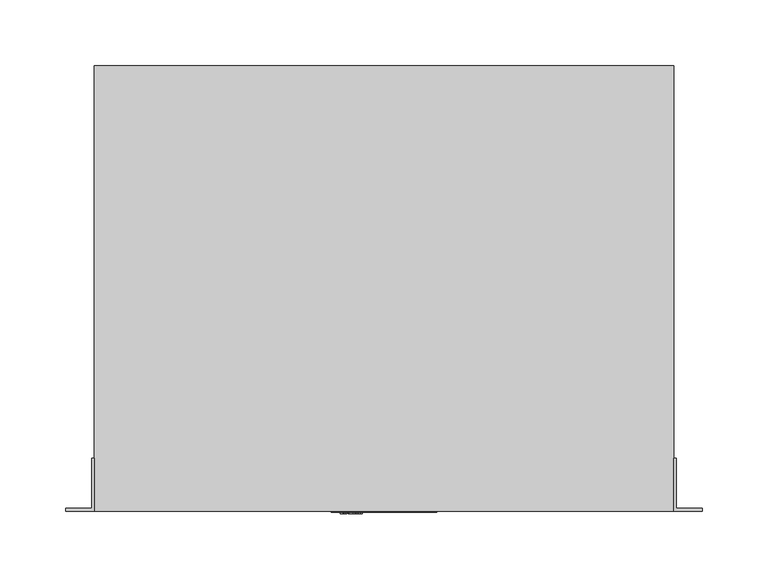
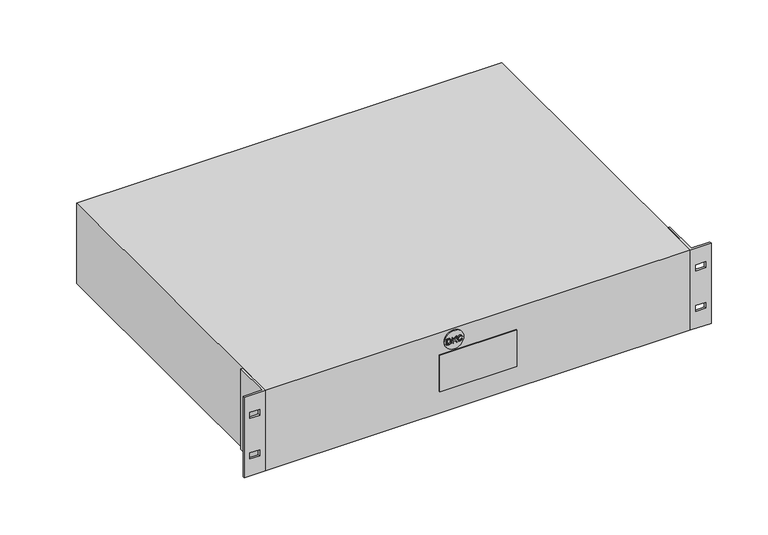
"""IFC4 building model written with IfcOpenShell, lengths in millimetres: proxy geometry, НВО_КНС_Линейно-интерактивныйИБПInfoRPro_DKC : 1000 ВА."""

import ifcopenshell
import ifcopenshell.guid

model = None  # the IFC model being written
_history = None  # IfcOwnerHistory: only IFC2X3 demands one
_inside = {}  # id of a spatial element -> (the spatial element, [elements in it])
_under = {}  # id of a project, library or spatial element -> (it, [spatial elements below it])
_declared = {}  # id of a project -> (the project, [libraries it declares])
_typed = {}  # id of a type object -> (the type object, [elements of that type])
_made_of = {}  # id of a material, layer set ... -> (it, [elements and type objects made of it])


def new_model(schema):
    """Start an empty IFC model of exactly this schema.

    Asked for "IFC4X3", IfcOpenShell would pick the latest addendum, in which some entities
    have other attributes; the version numbers below select the first issue.
    IFC2X3 requires an IfcOwnerHistory on every rooted entity: one is made here for all.
    """
    global model, _history
    if schema == "IFC4X3":
        model = ifcopenshell.file(schema_version=(4, 3, 0, 0))
    else:
        model = ifcopenshell.file(schema=schema)
    _inside.clear()
    _under.clear()
    _declared.clear()
    _typed.clear()
    _made_of.clear()
    _history = None
    if model.schema == "IFC2X3":
        org = make("IfcOrganization", Name="unknown")
        user = make(
            "IfcPersonAndOrganization",
            ThePerson=make("IfcPerson", FamilyName="unknown"),
            TheOrganization=org,
        )
        app = make(
            "IfcApplication",
            ApplicationDeveloper=org,
            Version="unknown",
            ApplicationFullName="unknown",
            ApplicationIdentifier="unknown",
        )
        _history = make(
            "IfcOwnerHistory",
            OwningUser=user,
            OwningApplication=app,
            ChangeAction="ADDED",
            CreationDate=0,
        )
    return model


def make(cls, **values):
    """One entity of the class cls with the attributes given. An attribute that is None is left unset."""
    return model.create_entity(
        cls, **{name: value for name, value in values.items() if value is not None}
    )


def rooted(cls, **values):
    """An entity with a GlobalId (a new one), such as an element, a storey or a relation."""
    return make(cls, GlobalId=ifcopenshell.guid.new(), OwnerHistory=_history, **values)


def si_unit(unit_type, name, prefix=None):
    """IfcSIUnit, for example si_unit("LENGTHUNIT", "METRE", prefix="MILLI")."""
    return make("IfcSIUnit", UnitType=unit_type, Prefix=prefix, Name=name)


def assignment(units):
    """IfcUnitAssignment: the units of a project."""
    return None if units is None else make("IfcUnitAssignment", Units=units)


def point(xyz):
    """IfcCartesianPoint."""
    return None if xyz is None else make("IfcCartesianPoint", Coordinates=xyz)


def direction(xyz):
    """IfcDirection."""
    return None if xyz is None else make("IfcDirection", DirectionRatios=xyz)


def frame(location, z_axis=None, x_axis=None):
    """IfcAxis2Placement3D, a coordinate frame: its origin and axes. An axis left out is left unset."""
    return make(
        "IfcAxis2Placement3D",
        Location=point(location),
        Axis=direction(z_axis),
        RefDirection=direction(x_axis),
    )


def frame_2d(location, x_axis=None):
    """IfcAxis2Placement2D, a coordinate frame in the plane: its origin and x axis."""
    return make(
        "IfcAxis2Placement2D", Location=point(location), RefDirection=direction(x_axis)
    )


def origin():
    """The frame at (0, 0, 0) with its axes left unset."""
    return frame((0.0, 0.0, 0.0))


def origin_with_axes():
    """The frame at (0, 0, 0) with the z axis (0, 0, 1) and the x axis (1, 0, 0) written out."""
    return frame((0.0, 0.0, 0.0), z_axis=(0.0, 0.0, 1.0), x_axis=(1.0, 0.0, 0.0))


def place(relative_to, where):
    """IfcLocalPlacement: puts the frame where relative to a parent placement (None: the world)."""
    return make(
        "IfcLocalPlacement", PlacementRelTo=relative_to, RelativePlacement=where
    )


def context(
    kind, dimensions, precision=None, world=None, true_north=None, identifier=None
):
    """IfcGeometricRepresentationContext, for example the 3D "Model" context."""
    return make(
        "IfcGeometricRepresentationContext",
        ContextIdentifier=identifier,
        ContextType=kind,
        CoordinateSpaceDimension=dimensions,
        Precision=precision,
        WorldCoordinateSystem=world,
        TrueNorth=true_north,
    )


def project(units=None, contexts=None):
    """IfcProject with its units and contexts."""
    return rooted(
        "IfcProject",
        Name="project",
        RepresentationContexts=contexts,
        UnitsInContext=assignment(units),
    )


def spatial(cls, under=None, at=None, **own):
    """A site, building, storey or space (cls), placed at a placement, below another one or the project."""
    s = rooted(cls, ObjectPlacement=at, **own)
    if under is not None:
        _under.setdefault(under.id(), (under, []))[1].append(s)
    return s


def polyline(points):
    """IfcPolyline through the points."""
    return make("IfcPolyline", Points=[point(p) for p in points])


def circle_curve(where, radius):
    """IfcCircle in the frame where."""
    return make("IfcCircle", Position=where, Radius=radius)


def trimmed(basis, trim1, trim2, sense, master):
    """IfcTrimmedCurve: the piece of a basis curve between two trims."""
    return make(
        "IfcTrimmedCurve",
        BasisCurve=basis,
        Trim1=trim1,
        Trim2=trim2,
        SenseAgreement=sense,
        MasterRepresentation=master,
    )


def segment(curve, same_sense, transition):
    """IfcCompositeCurveSegment."""
    return make(
        "IfcCompositeCurveSegment",
        Transition=transition,
        SameSense=same_sense,
        ParentCurve=curve,
    )


def composite_curve(segments, self_intersect=None):
    """IfcCompositeCurve: segments joined end to end."""
    return make("IfcCompositeCurve", Segments=segments, SelfIntersect=self_intersect)


def outline(outer, holes=None, kind="AREA"):
    """IfcArbitraryClosedProfileDef: a profile drawn as a closed curve; with holes, ...WithVoids."""
    if holes is None:
        return make("IfcArbitraryClosedProfileDef", ProfileType=kind, OuterCurve=outer)
    return make(
        "IfcArbitraryProfileDefWithVoids",
        ProfileType=kind,
        OuterCurve=outer,
        InnerCurves=holes,
    )


def extrude(swept, where, along, depth):
    """IfcExtrudedAreaSolid: the profile swept, set in the frame where, extruded along a direction by depth."""
    return make(
        "IfcExtrudedAreaSolid",
        SweptArea=swept,
        Position=where,
        ExtrudedDirection=direction(along),
        Depth=depth,
    )


def faces_of(points, faces, orient=None, outer=None):
    """IfcFace entities. A face is a list of loops; a loop is a list of indices into points, from 0.

    orient and outer hold one flag for each loop. By default every Orientation is true, the
    first loop of a face is its IfcFaceOuterBound and the others are IfcFaceBound.
    """
    made = []
    for i, loops in enumerate(faces):
        bounds = []
        for j, loop in enumerate(loops):
            is_outer = j == 0 if outer is None else outer[i][j]
            bounds.append(
                make(
                    "IfcFaceOuterBound" if is_outer else "IfcFaceBound",
                    Bound=make("IfcPolyLoop", Polygon=[points[k] for k in loop]),
                    Orientation=True if orient is None else orient[i][j],
                )
            )
        made.append(make("IfcFace", Bounds=bounds))
    return made


def faceted_brep(points, faces, orient=None, outer=None, voids=None):
    """IfcFacetedBrep: a solid bounded by flat faces; with voids (closed shells), ...WithVoids."""
    shared = [point(p) for p in points]
    hull = make("IfcClosedShell", CfsFaces=faces_of(shared, faces, orient, outer))
    if voids is None:
        return make("IfcFacetedBrep", Outer=hull)
    return make(
        "IfcFacetedBrepWithVoids",
        Outer=hull,
        Voids=[
            make(cls, CfsFaces=faces_of(shared, fs, o, b)) for cls, fs, o, b in voids
        ],
    )


def shape(context_of_items, identifier, shape_type, items):
    """IfcShapeRepresentation: the items that make up one representation, for example the "Body"."""
    return make(
        "IfcShapeRepresentation",
        ContextOfItems=context_of_items,
        RepresentationIdentifier=identifier,
        RepresentationType=shape_type,
        Items=items,
    )


def source(mapping_origin, context_of_items, identifier, shape_type, items):
    """IfcRepresentationMap: a shape defined once, which mapped items show again and again."""
    return make(
        "IfcRepresentationMap",
        MappingOrigin=mapping_origin,
        MappedRepresentation=shape(context_of_items, identifier, shape_type, items),
    )


def transform(
    local_origin,
    x_axis=None,
    y_axis=None,
    z_axis=None,
    scale=None,
    scale2=None,
    scale3=None,
    uniform=True,
):
    """IfcCartesianTransformationOperator3D, or its non-uniform kind. x_axis, y_axis, z_axis: its Axis1, 2, 3."""
    if uniform:
        return make(
            "IfcCartesianTransformationOperator3D",
            Axis1=direction(x_axis),
            Axis2=direction(y_axis),
            LocalOrigin=point(local_origin),
            Scale=scale,
            Axis3=direction(z_axis),
        )
    return make(
        "IfcCartesianTransformationOperator3DnonUniform",
        Axis1=direction(x_axis),
        Axis2=direction(y_axis),
        LocalOrigin=point(local_origin),
        Scale=scale,
        Axis3=direction(z_axis),
        Scale2=scale2,
        Scale3=scale3,
    )


def mapped(mapping_source, mapping_target):
    """IfcMappedItem: shows the shape of a source again, moved by a transform."""
    return make(
        "IfcMappedItem", MappingSource=mapping_source, MappingTarget=mapping_target
    )


def made_of(thing, what):
    """Note that an element or type object is made of a material, layer set ...; save() writes the relation."""
    if what is not None:
        _made_of.setdefault(what.id(), (what, []))[1].append(thing)
    return thing


def element(
    cls,
    number,
    at=None,
    inside=None,
    cuts=None,
    type_object=None,
    material=None,
    context=None,
    identifier="Body",
    shape_type=None,
    held_by="IfcProductDefinitionShape",
    body=None,
    shapes=None,
    **own,
):
    """One element of the class cls, such as IfcWall. Its Tag is "e" and its number.

    at: its placement. inside: the storey or other place that contains it. cuts: it is an
    opening in that element (IfcRelVoidsElement). A single representation is given by context,
    identifier, shape_type and body (its items); several are given by shapes. held_by: the class
    of the entity that holds the representations. save() writes the other relations.
    """
    e = rooted(cls, Tag="e%d" % number, ObjectPlacement=at, **own)
    if body is not None:
        shapes = [shape(context, identifier, shape_type, body)]
    if shapes is not None:
        e.Representation = make(held_by, Representations=shapes)
    if inside is not None:
        _inside.setdefault(inside.id(), (inside, []))[1].append(e)
    if cuts is not None:
        rooted(
            "IfcRelVoidsElement", RelatingBuildingElement=cuts, RelatedOpeningElement=e
        )
    if type_object is not None:
        _typed.setdefault(type_object.id(), (type_object, []))[1].append(e)
    return made_of(e, material)


def aggregate(whole, parts):
    """IfcRelAggregates: a whole, such as a stair, and the parts it consists of."""
    return rooted("IfcRelAggregates", RelatingObject=whole, RelatedObjects=parts)


def save(model, path):
    """Write the relations noted so far, then the file.

    IfcRelAggregates (storeys below a building ...), IfcRelContainedInSpatialStructure (elements
    in a storey), IfcRelDefinesByType, IfcRelAssociatesMaterial and IfcRelDeclares: one each for
    every whole, place, type object, material and project.
    """
    for whole, parts in _under.values():
        aggregate(whole, parts)
    for where, things in _inside.values():
        rooted(
            "IfcRelContainedInSpatialStructure",
            RelatedElements=things,
            RelatingStructure=where,
        )
    for kind, things in _typed.values():
        rooted("IfcRelDefinesByType", RelatedObjects=things, RelatingType=kind)
    for what, things in _made_of.values():
        rooted("IfcRelAssociatesMaterial", RelatedObjects=things, RelatingMaterial=what)
    for by, libraries in _declared.values():
        rooted("IfcRelDeclares", RelatingContext=by, RelatedDefinitions=libraries)
    model.write(path)


def electrical_equipment_f909d58b(model_context):
    return source(origin(), model_context, "Body", "SolidModel", [
        extrude(outline(polyline([(73.0, -33.1463789), (73.0, -30.967046), (73.103007, -29.9980448), (73.9520786, -28.7273804), (74.829845, -28.3153525), (76.0460629, -28.154956), (77.4793312, -28.391872), (78.5094008, -29.1055631), (78.9405585, -29.9914229), (79.0273786, -31.0671099), (79.0273786, -33.1463789), (73.0, -33.1463789)]), holes=[polyline([(73.7534223, -32.3929566), (78.2739563, -32.3929566), (78.2739563, -31.0803536), (78.153291, -30.0120243), (77.4852173, -29.2299072), (76.0578351, -28.9083783), (74.9181367, -29.0724537), (73.8623154, -30.0900153), (73.7534223, -31.0597522), (73.7534223, -32.3929566)])]), frame((0.0, -2.0, 0.0), z_axis=(0.0, 1.0, 0.0), x_axis=(0.0, 0.0, 1.0)), (0.0, 0.0, 1.0), 6.0),
        extrude(outline(polyline([(73.0, -26.7422891), (75.0719114, -26.365578), (76.0401768, -25.3502237), (73.0, -23.0487539), (73.0, -22.1275774), (76.5493255, -24.816059), (79.0273786, -22.2217552), (79.0273786, -23.2753692), (76.076965, -26.365578), (79.0273786, -27.1190003), (73.0, -26.7422891)])), frame((0.0, -2.0, 0.0), z_axis=(0.0, 1.0, 0.0), x_axis=(0.0, 0.0, 1.0)), (0.0, 0.0, 1.0), 6.0),
        extrude(outline(polyline([(75.1425447, -17.3245101), (74.0330126, -17.963889), (73.6592445, -19.1168311), (73.9336845, -20.1564657), (74.7628905, -20.8642706), (76.0607782, -21.0916217), (77.180611, -20.8995873), (78.0458694, -20.2337209), (78.3681341, -19.055027), (78.0775073, -18.0367296), (77.3307068, -16.6652655), (78.652139, -17.5165445), (79.1215564, -19.0255964), (78.7588248, -20.4735799), (77.6971173, -21.4881985), (76.0593067, -21.845044), (74.4479835, -21.5294013), (73.3016632, -20.6096963), (72.9058222, -19.0417832), (73.4289504, -17.4643052), (75.1425447, -17.3245101)])), frame((0.0, -2.0, 0.0), z_axis=(0.0, 1.0, 0.0), x_axis=(0.0, 0.0, 1.0)), (0.0, 0.0, 1.0), 6.0),
        extrude(outline(composite_curve([segment(trimmed(circle_curve(frame_2d((76.0, -25.0)), 10.0), [point((76.0, -35.0))], [point((76.0, -15.0))], False, "CARTESIAN"), True, "CONTINUOUS"), segment(trimmed(circle_curve(frame_2d((76.0, -25.0)), 10.0), [point((76.0, -15.0))], [point((76.0, -35.0))], False, "CARTESIAN"), True, "CONTINUOUS")], self_intersect=False)), frame((0.0, -1.0, 0.0), z_axis=(0.0, 1.0, 0.0), x_axis=(0.0, 0.0, 1.0)), (0.0, 0.0, 1.0), 10.0),
        faceted_brep([(-222.0, 2.0, 88.0), (-241.5, 2.0, 88.0), (-241.5, 0.0, 88.0), (-220.0, 0.0, 88.0), (-220.0, 40.0, 88.0), (-222.0, 40.0, 88.0), (-222.0, 2.0, 0.0), (-222.0, 40.0, 0.0), (-220.0, 40.0, 0.0), (-220.0, 0.0, 0.0), (-241.5, 0.0, 0.0), (-241.5, 2.0, 0.0), (-225.75, 2.0, 69.5), (-235.75, 2.0, 69.5), (-235.75, 2.0, 63.0), (-225.75, 2.0, 63.0), (-225.75, 2.0, 18.5), (-225.75, 2.0, 24.975), (-235.75, 2.0, 24.975), (-235.75, 2.0, 18.5), (-235.75, 0.0, 69.5), (-225.75, 0.0, 69.5), (-225.75, 0.0, 63.0), (-235.75, 0.0, 63.0), (-225.75, 0.0, 24.975), (-225.75, 0.0, 18.5), (-235.75, 0.0, 18.5), (-235.75, 0.0, 24.975)], [[[0, 1, 2, 3, 4, 5]], [[6, 7, 8, 9, 10, 11]], [[1, 0, 6, 11], [12, 13, 14, 15], [16, 17, 18, 19]], [[2, 1, 11, 10]], [[3, 2, 10, 9], [20, 21, 22, 23], [24, 25, 26, 27]], [[4, 3, 9, 8]], [[5, 4, 8, 7]], [[0, 5, 7, 6]], [[20, 13, 12, 21]], [[13, 20, 23, 14]], [[14, 23, 22, 15]], [[21, 12, 15, 22]], [[24, 17, 16, 25]], [[17, 24, 27, 18]], [[18, 27, 26, 19]], [[25, 16, 19, 26]]]),
        faceted_brep([(220.0, 0.0, 88.0), (241.5, 0.0, 88.0), (241.5, 2.0, 88.0), (222.0, 2.0, 88.0), (222.0, 40.0, 88.0), (220.0, 40.0, 88.0), (220.0, 0.0, 0.0), (220.0, 40.0, 0.0), (222.0, 40.0, 0.0), (222.0, 2.0, 0.0), (241.5, 2.0, 0.0), (241.5, 0.0, 0.0), (225.75, 0.0, 63.0), (225.75, 0.0, 69.5), (235.75, 0.0, 69.5), (235.75, 0.0, 63.0), (235.75, 0.0, 18.5), (225.75, 0.0, 18.5), (225.75, 0.0, 24.975), (235.75, 0.0, 24.975), (225.75, 2.0, 69.5), (225.75, 2.0, 63.0), (235.75, 2.0, 63.0), (235.75, 2.0, 69.5), (225.75, 2.0, 18.5), (235.75, 2.0, 18.5), (235.75, 2.0, 24.975), (225.75, 2.0, 24.975)], [[[0, 1, 2, 3, 4, 5]], [[6, 7, 8, 9, 10, 11]], [[1, 0, 6, 11], [12, 13, 14, 15], [16, 17, 18, 19]], [[2, 1, 11, 10]], [[3, 2, 10, 9], [20, 21, 22, 23], [24, 25, 26, 27]], [[4, 3, 9, 8]], [[5, 4, 8, 7]], [[0, 5, 7, 6]], [[12, 21, 20, 13]], [[21, 12, 15, 22]], [[22, 15, 14, 23]], [[13, 20, 23, 14]], [[16, 25, 24, 17]], [[25, 16, 19, 26]], [[26, 19, 18, 27]], [[17, 24, 27, 18]]]),
        extrude(outline(polyline([(40.0, -1.0), (-40.0, -1.0), (-40.0, 0.0), (40.0, 0.0), (40.0, -1.0)])), frame((0.0, 0.0, 24.0), z_axis=(0.0, 0.0, 1.0), x_axis=(1.0, 0.0, 0.0)), (0.0, 0.0, 1.0), 40.0),
        extrude(outline(polyline([(220.0, 0.0), (-220.0, 0.0), (-220.0, 338.0), (220.0, 338.0), (220.0, 0.0)])), origin_with_axes(), (0.0, 0.0, 1.0), 88.0),
    ])


if __name__ == "__main__":
    model = new_model("IFC4")
    model_context = context("Model", 3, world=origin())
    ifc_project = project(units=[si_unit("LENGTHUNIT", "METRE", prefix="MILLI")], contexts=[model_context])
    site = spatial("IfcSite", under=ifc_project)
    building = spatial("IfcBuilding", under=site)
    placement = place(None, origin())
    electrical_equipment_shape = electrical_equipment_f909d58b(model_context)
    element("IfcBuildingElementProxy", 1, Name="НВО_КНС_Линейно-интерактивныйИБПInfoRPro_DKC : 1000 ВА", ObjectType="НВО_КНС_Линейно-интерактивныйИБПInfoRPro_DKC : 1000 ВА", at=placement, inside=building, context=model_context, shape_type="MappedRepresentation", body=[
        mapped(electrical_equipment_shape, transform((0.0, 0.0, 0.0), x_axis=(1.0, 0.0, 0.0), y_axis=(0.0, 1.0, 0.0), z_axis=(0.0, 0.0, 1.0))),
    ])
    save(model, "model.ifc")
